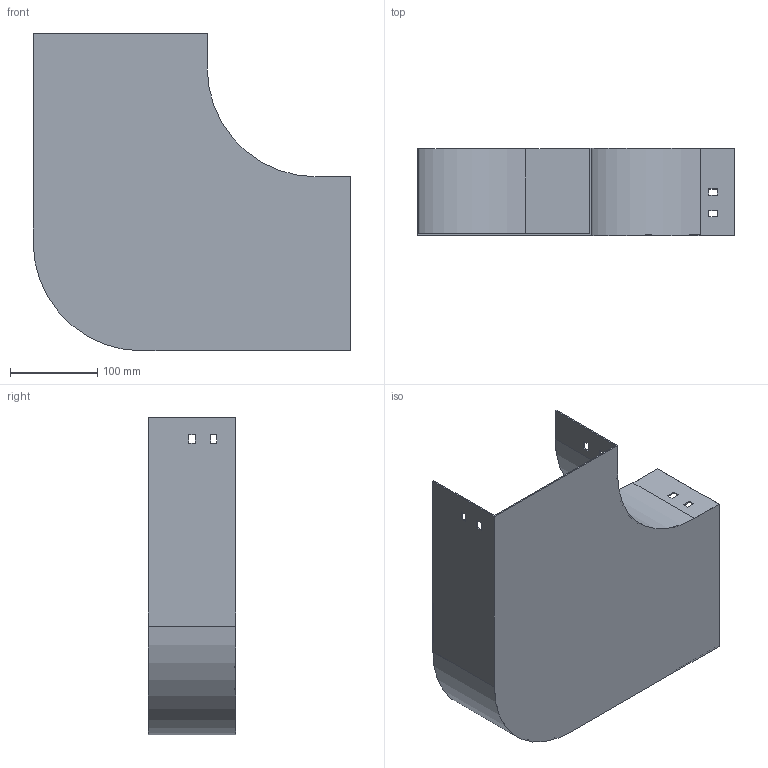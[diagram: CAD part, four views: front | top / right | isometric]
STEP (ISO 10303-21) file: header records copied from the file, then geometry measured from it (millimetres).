
FILE_DESCRIPTION (( 'STEP AP214' ), '1' );
FILE_NAME ('P9_201.step', '2025-07-16T09:20:35', ( '' ), ( '' ), 'SwSTEP 2.0', 'SolidWorks 2023', '' );
FILE_SCHEMA (( 'AUTOMOTIVE_DESIGN' ));
Length unit declared in the file: millimetre
Products named in the file (1): P9_201
Bounding box: 365 x 100 x 365 mm (x, y, z)
Volume: 298921.3 mm3; surface area: 401589.8 mm2
Topology: 1 solids, 1 shells, 50 faces, 144 edges, 96 vertices
Faces by surface type: plane 46, cylinder 4
Entity records: 1671 total; most frequent: CARTESIAN_POINT 291, ORIENTED_EDGE 288, DIRECTION 254, EDGE_CURVE 144, VECTOR 136, LINE 136, VERTEX_POINT 96, EDGE_LOOP 66
